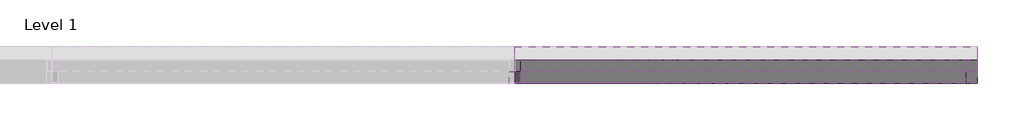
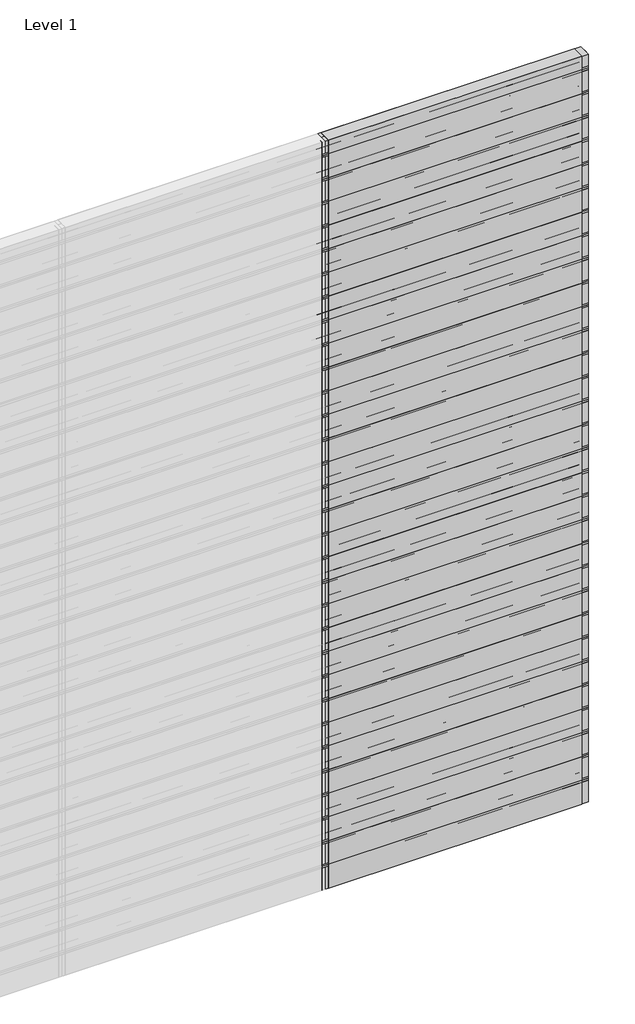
# One storey, part 3 of 3: 73 members, 64 plates.
"""IFC4 building model written with IfcOpenShell, lengths in millimetres."""

from ifc_helpers import new_model, si_unit, origin, place, context, project, spatial, transform, mapped, element, save
from components import rectangular_mullion_8734c8a8, rectangular_mullion_3201b9fb, rectangular_mullion_5aa39df7, rectangular_mullion_60d32940, rectangular_mullion_66fc153d, empty_system_panel_empty_0e8c6ffc, empty_system_panel_empty_bbeb8583, empty_system_panel_empty_e07de6c1, empty_system_panel_empty_83ec7203, empty_system_panel_empty_71fd4c2e

model = new_model("IFC4")

# Units and contexts
model_context = context("Model", 3, world=origin())
ifc_project = project(units=[si_unit("LENGTHUNIT", "METRE", prefix="MILLI")], contexts=[model_context])

# Site, building, storey
site = spatial("IfcSite", under=ifc_project)
building = spatial("IfcBuilding", under=site)
storey = spatial("IfcBuildingStorey", under=building, Name="Level 1", Elevation=0.0)

# Members
placement = place(None, origin())
rectangular_mullion_shape = rectangular_mullion_8734c8a8(model_context)
element("IfcMember", 1, ObjectType="Rectangular Mullion : RSen_21_CWM_blade - 150 CF_gen_duco projects", at=placement, inside=storey, context=model_context, shape_type="MappedRepresentation", body=[
    mapped(rectangular_mullion_shape, transform((4000.0, 3000.0, 4370.0), x_axis=(0.0, 0.0, 1.0), y_axis=(0.0, 1.0, 0.0), z_axis=(-1.0, 0.0, 0.0))),
])
element("IfcMember", 2, ObjectType="Rectangular Mullion : RSen_21_CWM_blade - 150 CF_gen_duco projects", at=placement, inside=storey, context=model_context, shape_type="MappedRepresentation", body=[
    mapped(rectangular_mullion_shape, transform((4000.0, 3000.0, 4560.0), x_axis=(0.0, 0.0, 1.0), y_axis=(0.0, 1.0, 0.0), z_axis=(-1.0, 0.0, 0.0))),
])
element("IfcMember", 3, ObjectType="Rectangular Mullion : RSen_21_CWM_blade - 150 CF_gen_duco projects", at=placement, inside=storey, context=model_context, shape_type="MappedRepresentation", body=[
    mapped(rectangular_mullion_shape, transform((4000.0, 3000.0, 4750.0), x_axis=(0.0, 0.0, 1.0), y_axis=(0.0, 1.0, 0.0), z_axis=(-1.0, 0.0, 0.0))),
])
element("IfcMember", 4, ObjectType="Rectangular Mullion : RSen_21_CWM_blade - 150 CF_gen_duco projects", at=placement, inside=storey, context=model_context, shape_type="MappedRepresentation", body=[
    mapped(rectangular_mullion_shape, transform((4000.0, 3000.0, 4940.0), x_axis=(0.0, 0.0, 1.0), y_axis=(0.0, 1.0, 0.0), z_axis=(-1.0, 0.0, 0.0))),
])
element("IfcMember", 5, ObjectType="Rectangular Mullion : RSen_21_CWM_blade - 150 CF_gen_duco projects", at=placement, inside=storey, context=model_context, shape_type="MappedRepresentation", body=[
    mapped(rectangular_mullion_shape, transform((4000.0, 3000.0, 5130.0), x_axis=(0.0, 0.0, 1.0), y_axis=(0.0, 1.0, 0.0), z_axis=(-1.0, 0.0, 0.0))),
])
element("IfcMember", 6, ObjectType="Rectangular Mullion : RSen_21_CWM_blade - 150 CF_gen_duco projects", at=placement, inside=storey, context=model_context, shape_type="MappedRepresentation", body=[
    mapped(rectangular_mullion_shape, transform((4000.0, 3000.0, 5320.0), x_axis=(0.0, 0.0, 1.0), y_axis=(0.0, 1.0, 0.0), z_axis=(-1.0, 0.0, 0.0))),
])
element("IfcMember", 7, ObjectType="Rectangular Mullion : RSen_21_CWM_blade - 150 CF_gen_duco projects", at=placement, inside=storey, context=model_context, shape_type="MappedRepresentation", body=[
    mapped(rectangular_mullion_shape, transform((4000.0, 3000.0, 5510.0), x_axis=(0.0, 0.0, 1.0), y_axis=(0.0, 1.0, 0.0), z_axis=(-1.0, 0.0, 0.0))),
])
element("IfcMember", 8, ObjectType="Rectangular Mullion : RSen_21_CWM_blade - 150 CF_gen_duco projects", at=placement, inside=storey, context=model_context, shape_type="MappedRepresentation", body=[
    mapped(rectangular_mullion_shape, transform((4000.0, 3000.0, 5700.0), x_axis=(0.0, 0.0, 1.0), y_axis=(0.0, 1.0, 0.0), z_axis=(-1.0, 0.0, 0.0))),
])
element("IfcMember", 9, ObjectType="Rectangular Mullion : RSen_21_CWM_blade - 150 CF_gen_duco projects", at=placement, inside=storey, context=model_context, shape_type="MappedRepresentation", body=[
    mapped(rectangular_mullion_shape, transform((4000.0, 3000.0, 5890.0), x_axis=(0.0, 0.0, 1.0), y_axis=(0.0, 1.0, 0.0), z_axis=(-1.0, 0.0, 0.0))),
])
rectangular_mullion_2_shape = rectangular_mullion_3201b9fb(model_context)
element("IfcMember", 10, ObjectType="Rectangular Mullion : RSen_21_CWM_support profile 50x50_gen_duco projects", at=placement, inside=storey, context=model_context, shape_type="MappedRepresentation", body=[
    mapped(rectangular_mullion_2_shape, transform((4000.0, 3000.0, 0.0), x_axis=(-1.0, 0.0, 0.0), y_axis=(0.0, 1.0, 0.0), z_axis=(0.0, 0.0, -1.0))),
])
element("IfcMember", 11, ObjectType="Rectangular Mullion : RSen_21_CWM_support profile 50x50_gen_duco projects", at=placement, inside=storey, context=model_context, shape_type="MappedRepresentation", body=[
    mapped(rectangular_mullion_2_shape, transform((4000.0, 3000.0, 190.0), x_axis=(-1.0, 0.0, 0.0), y_axis=(0.0, 1.0, 0.0), z_axis=(0.0, 0.0, -1.0))),
])
element("IfcMember", 12, ObjectType="Rectangular Mullion : RSen_21_CWM_support profile 50x50_gen_duco projects", at=placement, inside=storey, context=model_context, shape_type="MappedRepresentation", body=[
    mapped(rectangular_mullion_2_shape, transform((4000.0, 3000.0, 380.0), x_axis=(-1.0, 0.0, 0.0), y_axis=(0.0, 1.0, 0.0), z_axis=(0.0, 0.0, -1.0))),
])
element("IfcMember", 13, ObjectType="Rectangular Mullion : RSen_21_CWM_support profile 50x50_gen_duco projects", at=placement, inside=storey, context=model_context, shape_type="MappedRepresentation", body=[
    mapped(rectangular_mullion_2_shape, transform((4000.0, 3000.0, 570.0), x_axis=(-1.0, 0.0, 0.0), y_axis=(0.0, 1.0, 0.0), z_axis=(0.0, 0.0, -1.0))),
])
element("IfcMember", 14, ObjectType="Rectangular Mullion : RSen_21_CWM_support profile 50x50_gen_duco projects", at=placement, inside=storey, context=model_context, shape_type="MappedRepresentation", body=[
    mapped(rectangular_mullion_2_shape, transform((4000.0, 3000.0, 760.0), x_axis=(-1.0, 0.0, 0.0), y_axis=(0.0, 1.0, 0.0), z_axis=(0.0, 0.0, -1.0))),
])
element("IfcMember", 15, ObjectType="Rectangular Mullion : RSen_21_CWM_support profile 50x50_gen_duco projects", at=placement, inside=storey, context=model_context, shape_type="MappedRepresentation", body=[
    mapped(rectangular_mullion_2_shape, transform((4000.0, 3000.0, 950.0), x_axis=(-1.0, 0.0, 0.0), y_axis=(0.0, 1.0, 0.0), z_axis=(0.0, 0.0, -1.0))),
])
element("IfcMember", 16, ObjectType="Rectangular Mullion : RSen_21_CWM_support profile 50x50_gen_duco projects", at=placement, inside=storey, context=model_context, shape_type="MappedRepresentation", body=[
    mapped(rectangular_mullion_2_shape, transform((4000.0, 3000.0, 1140.0), x_axis=(-1.0, 0.0, 0.0), y_axis=(0.0, 1.0, 0.0), z_axis=(0.0, 0.0, -1.0))),
])
element("IfcMember", 17, ObjectType="Rectangular Mullion : RSen_21_CWM_support profile 50x50_gen_duco projects", at=placement, inside=storey, context=model_context, shape_type="MappedRepresentation", body=[
    mapped(rectangular_mullion_2_shape, transform((4000.0, 3000.0, 1330.0), x_axis=(-1.0, 0.0, 0.0), y_axis=(0.0, 1.0, 0.0), z_axis=(0.0, 0.0, -1.0))),
])
element("IfcMember", 18, ObjectType="Rectangular Mullion : RSen_21_CWM_support profile 50x50_gen_duco projects", at=placement, inside=storey, context=model_context, shape_type="MappedRepresentation", body=[
    mapped(rectangular_mullion_2_shape, transform((4000.0, 3000.0, 1520.0), x_axis=(-1.0, 0.0, 0.0), y_axis=(0.0, 1.0, 0.0), z_axis=(0.0, 0.0, -1.0))),
])
element("IfcMember", 19, ObjectType="Rectangular Mullion : RSen_21_CWM_support profile 50x50_gen_duco projects", at=placement, inside=storey, context=model_context, shape_type="MappedRepresentation", body=[
    mapped(rectangular_mullion_2_shape, transform((4000.0, 3000.0, 1710.0), x_axis=(-1.0, 0.0, 0.0), y_axis=(0.0, 1.0, 0.0), z_axis=(0.0, 0.0, -1.0))),
])
element("IfcMember", 20, ObjectType="Rectangular Mullion : RSen_21_CWM_support profile 50x50_gen_duco projects", at=placement, inside=storey, context=model_context, shape_type="MappedRepresentation", body=[
    mapped(rectangular_mullion_2_shape, transform((4000.0, 3000.0, 1900.0), x_axis=(-1.0, 0.0, 0.0), y_axis=(0.0, 1.0, 0.0), z_axis=(0.0, 0.0, -1.0))),
])
element("IfcMember", 21, ObjectType="Rectangular Mullion : RSen_21_CWM_support profile 50x50_gen_duco projects", at=placement, inside=storey, context=model_context, shape_type="MappedRepresentation", body=[
    mapped(rectangular_mullion_2_shape, transform((4000.0, 3000.0, 2090.0), x_axis=(-1.0, 0.0, 0.0), y_axis=(0.0, 1.0, 0.0), z_axis=(0.0, 0.0, -1.0))),
])
element("IfcMember", 22, ObjectType="Rectangular Mullion : RSen_21_CWM_support profile 50x50_gen_duco projects", at=placement, inside=storey, context=model_context, shape_type="MappedRepresentation", body=[
    mapped(rectangular_mullion_2_shape, transform((4000.0, 3000.0, 2280.0), x_axis=(-1.0, 0.0, 0.0), y_axis=(0.0, 1.0, 0.0), z_axis=(0.0, 0.0, -1.0))),
])
element("IfcMember", 23, ObjectType="Rectangular Mullion : RSen_21_CWM_support profile 50x50_gen_duco projects", at=placement, inside=storey, context=model_context, shape_type="MappedRepresentation", body=[
    mapped(rectangular_mullion_2_shape, transform((4000.0, 3000.0, 2470.0), x_axis=(-1.0, 0.0, 0.0), y_axis=(0.0, 1.0, 0.0), z_axis=(0.0, 0.0, -1.0))),
])
element("IfcMember", 24, ObjectType="Rectangular Mullion : RSen_21_CWM_support profile 50x50_gen_duco projects", at=placement, inside=storey, context=model_context, shape_type="MappedRepresentation", body=[
    mapped(rectangular_mullion_2_shape, transform((4000.0, 3000.0, 2660.0), x_axis=(-1.0, 0.0, 0.0), y_axis=(0.0, 1.0, 0.0), z_axis=(0.0, 0.0, -1.0))),
])
element("IfcMember", 25, ObjectType="Rectangular Mullion : RSen_21_CWM_support profile 50x50_gen_duco projects", at=placement, inside=storey, context=model_context, shape_type="MappedRepresentation", body=[
    mapped(rectangular_mullion_2_shape, transform((4000.0, 3000.0, 2850.0), x_axis=(-1.0, 0.0, 0.0), y_axis=(0.0, 1.0, 0.0), z_axis=(0.0, 0.0, -1.0))),
])
element("IfcMember", 26, ObjectType="Rectangular Mullion : RSen_21_CWM_support profile 50x50_gen_duco projects", at=placement, inside=storey, context=model_context, shape_type="MappedRepresentation", body=[
    mapped(rectangular_mullion_2_shape, transform((4000.0, 3000.0, 3040.0), x_axis=(-1.0, 0.0, 0.0), y_axis=(0.0, 1.0, 0.0), z_axis=(0.0, 0.0, -1.0))),
])
element("IfcMember", 27, ObjectType="Rectangular Mullion : RSen_21_CWM_support profile 50x50_gen_duco projects", at=placement, inside=storey, context=model_context, shape_type="MappedRepresentation", body=[
    mapped(rectangular_mullion_2_shape, transform((4000.0, 3000.0, 3230.0), x_axis=(-1.0, 0.0, 0.0), y_axis=(0.0, 1.0, 0.0), z_axis=(0.0, 0.0, -1.0))),
])
element("IfcMember", 28, ObjectType="Rectangular Mullion : RSen_21_CWM_support profile 50x50_gen_duco projects", at=placement, inside=storey, context=model_context, shape_type="MappedRepresentation", body=[
    mapped(rectangular_mullion_2_shape, transform((4000.0, 3000.0, 3420.0), x_axis=(-1.0, 0.0, 0.0), y_axis=(0.0, 1.0, 0.0), z_axis=(0.0, 0.0, -1.0))),
])
element("IfcMember", 29, ObjectType="Rectangular Mullion : RSen_21_CWM_support profile 50x50_gen_duco projects", at=placement, inside=storey, context=model_context, shape_type="MappedRepresentation", body=[
    mapped(rectangular_mullion_2_shape, transform((4000.0, 3000.0, 3610.0), x_axis=(-1.0, 0.0, 0.0), y_axis=(0.0, 1.0, 0.0), z_axis=(0.0, 0.0, -1.0))),
])
element("IfcMember", 30, ObjectType="Rectangular Mullion : RSen_21_CWM_support profile 50x50_gen_duco projects", at=placement, inside=storey, context=model_context, shape_type="MappedRepresentation", body=[
    mapped(rectangular_mullion_2_shape, transform((4000.0, 3000.0, 3800.0), x_axis=(-1.0, 0.0, 0.0), y_axis=(0.0, 1.0, 0.0), z_axis=(0.0, 0.0, -1.0))),
])
element("IfcMember", 31, ObjectType="Rectangular Mullion : RSen_21_CWM_support profile 50x50_gen_duco projects", at=placement, inside=storey, context=model_context, shape_type="MappedRepresentation", body=[
    mapped(rectangular_mullion_2_shape, transform((4000.0, 3000.0, 3990.0), x_axis=(-1.0, 0.0, 0.0), y_axis=(0.0, 1.0, 0.0), z_axis=(0.0, 0.0, -1.0))),
])
element("IfcMember", 32, ObjectType="Rectangular Mullion : RSen_21_CWM_support profile 50x50_gen_duco projects", at=placement, inside=storey, context=model_context, shape_type="MappedRepresentation", body=[
    mapped(rectangular_mullion_2_shape, transform((4000.0, 3000.0, 4180.0), x_axis=(-1.0, 0.0, 0.0), y_axis=(0.0, 1.0, 0.0), z_axis=(0.0, 0.0, -1.0))),
])
element("IfcMember", 33, ObjectType="Rectangular Mullion : RSen_21_CWM_support profile 50x50_gen_duco projects", at=placement, inside=storey, context=model_context, shape_type="MappedRepresentation", body=[
    mapped(rectangular_mullion_2_shape, transform((4000.0, 3000.0, 4370.0), x_axis=(-1.0, 0.0, 0.0), y_axis=(0.0, 1.0, 0.0), z_axis=(0.0, 0.0, -1.0))),
])
element("IfcMember", 34, ObjectType="Rectangular Mullion : RSen_21_CWM_support profile 50x50_gen_duco projects", at=placement, inside=storey, context=model_context, shape_type="MappedRepresentation", body=[
    mapped(rectangular_mullion_2_shape, transform((4000.0, 3000.0, 4560.0), x_axis=(-1.0, 0.0, 0.0), y_axis=(0.0, 1.0, 0.0), z_axis=(0.0, 0.0, -1.0))),
])
element("IfcMember", 35, ObjectType="Rectangular Mullion : RSen_21_CWM_support profile 50x50_gen_duco projects", at=placement, inside=storey, context=model_context, shape_type="MappedRepresentation", body=[
    mapped(rectangular_mullion_2_shape, transform((4000.0, 3000.0, 4750.0), x_axis=(-1.0, 0.0, 0.0), y_axis=(0.0, 1.0, 0.0), z_axis=(0.0, 0.0, -1.0))),
])
element("IfcMember", 36, ObjectType="Rectangular Mullion : RSen_21_CWM_support profile 50x50_gen_duco projects", at=placement, inside=storey, context=model_context, shape_type="MappedRepresentation", body=[
    mapped(rectangular_mullion_2_shape, transform((4000.0, 3000.0, 4940.0), x_axis=(-1.0, 0.0, 0.0), y_axis=(0.0, 1.0, 0.0), z_axis=(0.0, 0.0, -1.0))),
])
element("IfcMember", 37, ObjectType="Rectangular Mullion : RSen_21_CWM_support profile 50x50_gen_duco projects", at=placement, inside=storey, context=model_context, shape_type="MappedRepresentation", body=[
    mapped(rectangular_mullion_2_shape, transform((4000.0, 3000.0, 5130.0), x_axis=(-1.0, 0.0, 0.0), y_axis=(0.0, 1.0, 0.0), z_axis=(0.0, 0.0, -1.0))),
])
element("IfcMember", 38, ObjectType="Rectangular Mullion : RSen_21_CWM_support profile 50x50_gen_duco projects", at=placement, inside=storey, context=model_context, shape_type="MappedRepresentation", body=[
    mapped(rectangular_mullion_2_shape, transform((4000.0, 3000.0, 5320.0), x_axis=(-1.0, 0.0, 0.0), y_axis=(0.0, 1.0, 0.0), z_axis=(0.0, 0.0, -1.0))),
])
element("IfcMember", 39, ObjectType="Rectangular Mullion : RSen_21_CWM_support profile 50x50_gen_duco projects", at=placement, inside=storey, context=model_context, shape_type="MappedRepresentation", body=[
    mapped(rectangular_mullion_2_shape, transform((4000.0, 3000.0, 5510.0), x_axis=(-1.0, 0.0, 0.0), y_axis=(0.0, 1.0, 0.0), z_axis=(0.0, 0.0, -1.0))),
])
element("IfcMember", 40, ObjectType="Rectangular Mullion : RSen_21_CWM_support profile 50x50_gen_duco projects", at=placement, inside=storey, context=model_context, shape_type="MappedRepresentation", body=[
    mapped(rectangular_mullion_2_shape, transform((4000.0, 3000.0, 5700.0), x_axis=(-1.0, 0.0, 0.0), y_axis=(0.0, 1.0, 0.0), z_axis=(0.0, 0.0, -1.0))),
])
rectangular_mullion_3_shape = rectangular_mullion_5aa39df7(model_context)
element("IfcMember", 41, ObjectType="Rectangular Mullion : RSen_21_CWM_support profile 50x50_gen_duco projects", at=placement, inside=storey, context=model_context, shape_type="MappedRepresentation", body=[
    mapped(rectangular_mullion_3_shape, transform((4000.0, 3000.0, 5890.0), x_axis=(-1.0, 0.0, 0.0), y_axis=(0.0, 1.0, 0.0), z_axis=(0.0, 0.0, -1.0))),
])
rectangular_mullion_4_shape = rectangular_mullion_60d32940(model_context)
element("IfcMember", 42, ObjectType="Rectangular Mullion : RSen_21_CWM_support profile 50x50 - right_gen_duco projects", at=placement, inside=storey, context=model_context, shape_type="MappedRepresentation", body=[
    mapped(rectangular_mullion_4_shape, transform((6000.0, 3000.0, 6000.0), x_axis=(1.0, 0.0, 0.0), y_axis=(0.0, 1.0, 0.0), z_axis=(0.0, 0.0, 1.0))),
])
rectangular_mullion_5_shape = rectangular_mullion_66fc153d(model_context)
element("IfcMember", 43, ObjectType="Rectangular Mullion : RSen_21_CWM_support profile 50x50 - right_gen_duco projects", at=placement, inside=storey, context=model_context, shape_type="MappedRepresentation", body=[
    mapped(rectangular_mullion_5_shape, transform((6000.0, 3000.0, 190.0), x_axis=(1.0, 0.0, 0.0), y_axis=(0.0, 1.0, 0.0), z_axis=(0.0, 0.0, 1.0))),
])
element("IfcMember", 44, ObjectType="Rectangular Mullion : RSen_21_CWM_support profile 50x50 - right_gen_duco projects", at=placement, inside=storey, context=model_context, shape_type="MappedRepresentation", body=[
    mapped(rectangular_mullion_5_shape, transform((6000.0, 3000.0, 380.0), x_axis=(1.0, 0.0, 0.0), y_axis=(0.0, 1.0, 0.0), z_axis=(0.0, 0.0, 1.0))),
])
element("IfcMember", 45, ObjectType="Rectangular Mullion : RSen_21_CWM_support profile 50x50 - right_gen_duco projects", at=placement, inside=storey, context=model_context, shape_type="MappedRepresentation", body=[
    mapped(rectangular_mullion_5_shape, transform((6000.0, 3000.0, 570.0), x_axis=(1.0, 0.0, 0.0), y_axis=(0.0, 1.0, 0.0), z_axis=(0.0, 0.0, 1.0))),
])
element("IfcMember", 46, ObjectType="Rectangular Mullion : RSen_21_CWM_support profile 50x50 - right_gen_duco projects", at=placement, inside=storey, context=model_context, shape_type="MappedRepresentation", body=[
    mapped(rectangular_mullion_5_shape, transform((6000.0, 3000.0, 760.0), x_axis=(1.0, 0.0, 0.0), y_axis=(0.0, 1.0, 0.0), z_axis=(0.0, 0.0, 1.0))),
])
element("IfcMember", 47, ObjectType="Rectangular Mullion : RSen_21_CWM_support profile 50x50 - right_gen_duco projects", at=placement, inside=storey, context=model_context, shape_type="MappedRepresentation", body=[
    mapped(rectangular_mullion_5_shape, transform((6000.0, 3000.0, 950.0), x_axis=(1.0, 0.0, 0.0), y_axis=(0.0, 1.0, 0.0), z_axis=(0.0, 0.0, 1.0))),
])
element("IfcMember", 48, ObjectType="Rectangular Mullion : RSen_21_CWM_support profile 50x50 - right_gen_duco projects", at=placement, inside=storey, context=model_context, shape_type="MappedRepresentation", body=[
    mapped(rectangular_mullion_5_shape, transform((6000.0, 3000.0, 1140.0), x_axis=(1.0, 0.0, 0.0), y_axis=(0.0, 1.0, 0.0), z_axis=(0.0, 0.0, 1.0))),
])
element("IfcMember", 49, ObjectType="Rectangular Mullion : RSen_21_CWM_support profile 50x50 - right_gen_duco projects", at=placement, inside=storey, context=model_context, shape_type="MappedRepresentation", body=[
    mapped(rectangular_mullion_5_shape, transform((6000.0, 3000.0, 1330.0), x_axis=(1.0, 0.0, 0.0), y_axis=(0.0, 1.0, 0.0), z_axis=(0.0, 0.0, 1.0))),
])
element("IfcMember", 50, ObjectType="Rectangular Mullion : RSen_21_CWM_support profile 50x50 - right_gen_duco projects", at=placement, inside=storey, context=model_context, shape_type="MappedRepresentation", body=[
    mapped(rectangular_mullion_5_shape, transform((6000.0, 3000.0, 1520.0), x_axis=(1.0, 0.0, 0.0), y_axis=(0.0, 1.0, 0.0), z_axis=(0.0, 0.0, 1.0))),
])
element("IfcMember", 51, ObjectType="Rectangular Mullion : RSen_21_CWM_support profile 50x50 - right_gen_duco projects", at=placement, inside=storey, context=model_context, shape_type="MappedRepresentation", body=[
    mapped(rectangular_mullion_5_shape, transform((6000.0, 3000.0, 1710.0), x_axis=(1.0, 0.0, 0.0), y_axis=(0.0, 1.0, 0.0), z_axis=(0.0, 0.0, 1.0))),
])
element("IfcMember", 52, ObjectType="Rectangular Mullion : RSen_21_CWM_support profile 50x50 - right_gen_duco projects", at=placement, inside=storey, context=model_context, shape_type="MappedRepresentation", body=[
    mapped(rectangular_mullion_5_shape, transform((6000.0, 3000.0, 1900.0), x_axis=(1.0, 0.0, 0.0), y_axis=(0.0, 1.0, 0.0), z_axis=(0.0, 0.0, 1.0))),
])
element("IfcMember", 53, ObjectType="Rectangular Mullion : RSen_21_CWM_support profile 50x50 - right_gen_duco projects", at=placement, inside=storey, context=model_context, shape_type="MappedRepresentation", body=[
    mapped(rectangular_mullion_5_shape, transform((6000.0, 3000.0, 2090.0), x_axis=(1.0, 0.0, 0.0), y_axis=(0.0, 1.0, 0.0), z_axis=(0.0, 0.0, 1.0))),
])
element("IfcMember", 54, ObjectType="Rectangular Mullion : RSen_21_CWM_support profile 50x50 - right_gen_duco projects", at=placement, inside=storey, context=model_context, shape_type="MappedRepresentation", body=[
    mapped(rectangular_mullion_5_shape, transform((6000.0, 3000.0, 2280.0), x_axis=(1.0, 0.0, 0.0), y_axis=(0.0, 1.0, 0.0), z_axis=(0.0, 0.0, 1.0))),
])
element("IfcMember", 55, ObjectType="Rectangular Mullion : RSen_21_CWM_support profile 50x50 - right_gen_duco projects", at=placement, inside=storey, context=model_context, shape_type="MappedRepresentation", body=[
    mapped(rectangular_mullion_5_shape, transform((6000.0, 3000.0, 2470.0), x_axis=(1.0, 0.0, 0.0), y_axis=(0.0, 1.0, 0.0), z_axis=(0.0, 0.0, 1.0))),
])
element("IfcMember", 56, ObjectType="Rectangular Mullion : RSen_21_CWM_support profile 50x50 - right_gen_duco projects", at=placement, inside=storey, context=model_context, shape_type="MappedRepresentation", body=[
    mapped(rectangular_mullion_5_shape, transform((6000.0, 3000.0, 2660.0), x_axis=(1.0, 0.0, 0.0), y_axis=(0.0, 1.0, 0.0), z_axis=(0.0, 0.0, 1.0))),
])
element("IfcMember", 57, ObjectType="Rectangular Mullion : RSen_21_CWM_support profile 50x50 - right_gen_duco projects", at=placement, inside=storey, context=model_context, shape_type="MappedRepresentation", body=[
    mapped(rectangular_mullion_5_shape, transform((6000.0, 3000.0, 2850.0), x_axis=(1.0, 0.0, 0.0), y_axis=(0.0, 1.0, 0.0), z_axis=(0.0, 0.0, 1.0))),
])
element("IfcMember", 58, ObjectType="Rectangular Mullion : RSen_21_CWM_support profile 50x50 - right_gen_duco projects", at=placement, inside=storey, context=model_context, shape_type="MappedRepresentation", body=[
    mapped(rectangular_mullion_5_shape, transform((6000.0, 3000.0, 3040.0), x_axis=(1.0, 0.0, 0.0), y_axis=(0.0, 1.0, 0.0), z_axis=(0.0, 0.0, 1.0))),
])
element("IfcMember", 59, ObjectType="Rectangular Mullion : RSen_21_CWM_support profile 50x50 - right_gen_duco projects", at=placement, inside=storey, context=model_context, shape_type="MappedRepresentation", body=[
    mapped(rectangular_mullion_5_shape, transform((6000.0, 3000.0, 3230.0), x_axis=(1.0, 0.0, 0.0), y_axis=(0.0, 1.0, 0.0), z_axis=(0.0, 0.0, 1.0))),
])
element("IfcMember", 60, ObjectType="Rectangular Mullion : RSen_21_CWM_support profile 50x50 - right_gen_duco projects", at=placement, inside=storey, context=model_context, shape_type="MappedRepresentation", body=[
    mapped(rectangular_mullion_5_shape, transform((6000.0, 3000.0, 3420.0), x_axis=(1.0, 0.0, 0.0), y_axis=(0.0, 1.0, 0.0), z_axis=(0.0, 0.0, 1.0))),
])
element("IfcMember", 61, ObjectType="Rectangular Mullion : RSen_21_CWM_support profile 50x50 - right_gen_duco projects", at=placement, inside=storey, context=model_context, shape_type="MappedRepresentation", body=[
    mapped(rectangular_mullion_5_shape, transform((6000.0, 3000.0, 3610.0), x_axis=(1.0, 0.0, 0.0), y_axis=(0.0, 1.0, 0.0), z_axis=(0.0, 0.0, 1.0))),
])
element("IfcMember", 62, ObjectType="Rectangular Mullion : RSen_21_CWM_support profile 50x50 - right_gen_duco projects", at=placement, inside=storey, context=model_context, shape_type="MappedRepresentation", body=[
    mapped(rectangular_mullion_5_shape, transform((6000.0, 3000.0, 3800.0), x_axis=(1.0, 0.0, 0.0), y_axis=(0.0, 1.0, 0.0), z_axis=(0.0, 0.0, 1.0))),
])
element("IfcMember", 63, ObjectType="Rectangular Mullion : RSen_21_CWM_support profile 50x50 - right_gen_duco projects", at=placement, inside=storey, context=model_context, shape_type="MappedRepresentation", body=[
    mapped(rectangular_mullion_5_shape, transform((6000.0, 3000.0, 3990.0), x_axis=(1.0, 0.0, 0.0), y_axis=(0.0, 1.0, 0.0), z_axis=(0.0, 0.0, 1.0))),
])
element("IfcMember", 64, ObjectType="Rectangular Mullion : RSen_21_CWM_support profile 50x50 - right_gen_duco projects", at=placement, inside=storey, context=model_context, shape_type="MappedRepresentation", body=[
    mapped(rectangular_mullion_5_shape, transform((6000.0, 3000.0, 4180.0), x_axis=(1.0, 0.0, 0.0), y_axis=(0.0, 1.0, 0.0), z_axis=(0.0, 0.0, 1.0))),
])
element("IfcMember", 65, ObjectType="Rectangular Mullion : RSen_21_CWM_support profile 50x50 - right_gen_duco projects", at=placement, inside=storey, context=model_context, shape_type="MappedRepresentation", body=[
    mapped(rectangular_mullion_5_shape, transform((6000.0, 3000.0, 4370.0), x_axis=(1.0, 0.0, 0.0), y_axis=(0.0, 1.0, 0.0), z_axis=(0.0, 0.0, 1.0))),
])
element("IfcMember", 66, ObjectType="Rectangular Mullion : RSen_21_CWM_support profile 50x50 - right_gen_duco projects", at=placement, inside=storey, context=model_context, shape_type="MappedRepresentation", body=[
    mapped(rectangular_mullion_5_shape, transform((6000.0, 3000.0, 4560.0), x_axis=(1.0, 0.0, 0.0), y_axis=(0.0, 1.0, 0.0), z_axis=(0.0, 0.0, 1.0))),
])
element("IfcMember", 67, ObjectType="Rectangular Mullion : RSen_21_CWM_support profile 50x50 - right_gen_duco projects", at=placement, inside=storey, context=model_context, shape_type="MappedRepresentation", body=[
    mapped(rectangular_mullion_5_shape, transform((6000.0, 3000.0, 4750.0), x_axis=(1.0, 0.0, 0.0), y_axis=(0.0, 1.0, 0.0), z_axis=(0.0, 0.0, 1.0))),
])
element("IfcMember", 68, ObjectType="Rectangular Mullion : RSen_21_CWM_support profile 50x50 - right_gen_duco projects", at=placement, inside=storey, context=model_context, shape_type="MappedRepresentation", body=[
    mapped(rectangular_mullion_5_shape, transform((6000.0, 3000.0, 4940.0), x_axis=(1.0, 0.0, 0.0), y_axis=(0.0, 1.0, 0.0), z_axis=(0.0, 0.0, 1.0))),
])
element("IfcMember", 69, ObjectType="Rectangular Mullion : RSen_21_CWM_support profile 50x50 - right_gen_duco projects", at=placement, inside=storey, context=model_context, shape_type="MappedRepresentation", body=[
    mapped(rectangular_mullion_5_shape, transform((6000.0, 3000.0, 5130.0), x_axis=(1.0, 0.0, 0.0), y_axis=(0.0, 1.0, 0.0), z_axis=(0.0, 0.0, 1.0))),
])
element("IfcMember", 70, ObjectType="Rectangular Mullion : RSen_21_CWM_support profile 50x50 - right_gen_duco projects", at=placement, inside=storey, context=model_context, shape_type="MappedRepresentation", body=[
    mapped(rectangular_mullion_5_shape, transform((6000.0, 3000.0, 5320.0), x_axis=(1.0, 0.0, 0.0), y_axis=(0.0, 1.0, 0.0), z_axis=(0.0, 0.0, 1.0))),
])
element("IfcMember", 71, ObjectType="Rectangular Mullion : RSen_21_CWM_support profile 50x50 - right_gen_duco projects", at=placement, inside=storey, context=model_context, shape_type="MappedRepresentation", body=[
    mapped(rectangular_mullion_5_shape, transform((6000.0, 3000.0, 5510.0), x_axis=(1.0, 0.0, 0.0), y_axis=(0.0, 1.0, 0.0), z_axis=(0.0, 0.0, 1.0))),
])
element("IfcMember", 72, ObjectType="Rectangular Mullion : RSen_21_CWM_support profile 50x50 - right_gen_duco projects", at=placement, inside=storey, context=model_context, shape_type="MappedRepresentation", body=[
    mapped(rectangular_mullion_5_shape, transform((6000.0, 3000.0, 5700.0), x_axis=(1.0, 0.0, 0.0), y_axis=(0.0, 1.0, 0.0), z_axis=(0.0, 0.0, 1.0))),
])
element("IfcMember", 73, ObjectType="Rectangular Mullion : RSen_21_CWM_support profile 50x50 - right_gen_duco projects", at=placement, inside=storey, context=model_context, shape_type="MappedRepresentation", body=[
    mapped(rectangular_mullion_5_shape, transform((6000.0, 3000.0, 5890.0), x_axis=(1.0, 0.0, 0.0), y_axis=(0.0, 1.0, 0.0), z_axis=(0.0, 0.0, 1.0))),
])

# Plates
empty_system_panel_empty_shape = empty_system_panel_empty_0e8c6ffc(model_context)
element("IfcPlate", 74, ObjectType="Empty System Panel : Empty", at=placement, inside=storey, context=model_context, shape_type="MappedRepresentation", body=[
    mapped(empty_system_panel_empty_shape, transform((5000.0, 3000.0, 0.0), x_axis=(-1.0, 0.0, 0.0), y_axis=(0.0, -1.0, 0.0), z_axis=(0.0, 0.0, 1.0))),
])
empty_system_panel_empty_2_shape = empty_system_panel_empty_bbeb8583(model_context)
element("IfcPlate", 75, ObjectType="Empty System Panel : Empty", at=placement, inside=storey, context=model_context, shape_type="MappedRepresentation", body=[
    mapped(empty_system_panel_empty_2_shape, transform((5000.0, 3000.0, 204.8492424), x_axis=(-1.0, 0.0, 0.0), y_axis=(0.0, -1.0, 0.0), z_axis=(0.0, 0.0, 1.0))),
])
element("IfcPlate", 76, ObjectType="Empty System Panel : Empty", at=placement, inside=storey, context=model_context, shape_type="MappedRepresentation", body=[
    mapped(empty_system_panel_empty_2_shape, transform((5000.0, 3000.0, 394.8492424), x_axis=(-1.0, 0.0, 0.0), y_axis=(0.0, -1.0, 0.0), z_axis=(0.0, 0.0, 1.0))),
])
element("IfcPlate", 77, ObjectType="Empty System Panel : Empty", at=placement, inside=storey, context=model_context, shape_type="MappedRepresentation", body=[
    mapped(empty_system_panel_empty_2_shape, transform((5000.0, 3000.0, 584.8492424), x_axis=(-1.0, 0.0, 0.0), y_axis=(0.0, -1.0, 0.0), z_axis=(0.0, 0.0, 1.0))),
])
element("IfcPlate", 78, ObjectType="Empty System Panel : Empty", at=placement, inside=storey, context=model_context, shape_type="MappedRepresentation", body=[
    mapped(empty_system_panel_empty_2_shape, transform((5000.0, 3000.0, 774.8492424), x_axis=(-1.0, 0.0, 0.0), y_axis=(0.0, -1.0, 0.0), z_axis=(0.0, 0.0, 1.0))),
])
element("IfcPlate", 79, ObjectType="Empty System Panel : Empty", at=placement, inside=storey, context=model_context, shape_type="MappedRepresentation", body=[
    mapped(empty_system_panel_empty_2_shape, transform((5000.0, 3000.0, 964.8492424), x_axis=(-1.0, 0.0, 0.0), y_axis=(0.0, -1.0, 0.0), z_axis=(0.0, 0.0, 1.0))),
])
element("IfcPlate", 80, ObjectType="Empty System Panel : Empty", at=placement, inside=storey, context=model_context, shape_type="MappedRepresentation", body=[
    mapped(empty_system_panel_empty_2_shape, transform((5000.0, 3000.0, 1154.8492424), x_axis=(-1.0, 0.0, 0.0), y_axis=(0.0, -1.0, 0.0), z_axis=(0.0, 0.0, 1.0))),
])
element("IfcPlate", 81, ObjectType="Empty System Panel : Empty", at=placement, inside=storey, context=model_context, shape_type="MappedRepresentation", body=[
    mapped(empty_system_panel_empty_2_shape, transform((5000.0, 3000.0, 1344.8492424), x_axis=(-1.0, 0.0, 0.0), y_axis=(0.0, -1.0, 0.0), z_axis=(0.0, 0.0, 1.0))),
])
element("IfcPlate", 82, ObjectType="Empty System Panel : Empty", at=placement, inside=storey, context=model_context, shape_type="MappedRepresentation", body=[
    mapped(empty_system_panel_empty_2_shape, transform((5000.0, 3000.0, 1534.8492424), x_axis=(-1.0, 0.0, 0.0), y_axis=(0.0, -1.0, 0.0), z_axis=(0.0, 0.0, 1.0))),
])
element("IfcPlate", 83, ObjectType="Empty System Panel : Empty", at=placement, inside=storey, context=model_context, shape_type="MappedRepresentation", body=[
    mapped(empty_system_panel_empty_2_shape, transform((5000.0, 3000.0, 1724.8492424), x_axis=(-1.0, 0.0, 0.0), y_axis=(0.0, -1.0, 0.0), z_axis=(0.0, 0.0, 1.0))),
])
element("IfcPlate", 84, ObjectType="Empty System Panel : Empty", at=placement, inside=storey, context=model_context, shape_type="MappedRepresentation", body=[
    mapped(empty_system_panel_empty_2_shape, transform((5000.0, 3000.0, 1914.8492424), x_axis=(-1.0, 0.0, 0.0), y_axis=(0.0, -1.0, 0.0), z_axis=(0.0, 0.0, 1.0))),
])
element("IfcPlate", 85, ObjectType="Empty System Panel : Empty", at=placement, inside=storey, context=model_context, shape_type="MappedRepresentation", body=[
    mapped(empty_system_panel_empty_2_shape, transform((5000.0, 3000.0, 2104.8492424), x_axis=(-1.0, 0.0, 0.0), y_axis=(0.0, -1.0, 0.0), z_axis=(0.0, 0.0, 1.0))),
])
element("IfcPlate", 86, ObjectType="Empty System Panel : Empty", at=placement, inside=storey, context=model_context, shape_type="MappedRepresentation", body=[
    mapped(empty_system_panel_empty_2_shape, transform((5000.0, 3000.0, 2294.8492424), x_axis=(-1.0, 0.0, 0.0), y_axis=(0.0, -1.0, 0.0), z_axis=(0.0, 0.0, 1.0))),
])
element("IfcPlate", 87, ObjectType="Empty System Panel : Empty", at=placement, inside=storey, context=model_context, shape_type="MappedRepresentation", body=[
    mapped(empty_system_panel_empty_2_shape, transform((5000.0, 3000.0, 2484.8492424), x_axis=(-1.0, 0.0, 0.0), y_axis=(0.0, -1.0, 0.0), z_axis=(0.0, 0.0, 1.0))),
])
element("IfcPlate", 88, ObjectType="Empty System Panel : Empty", at=placement, inside=storey, context=model_context, shape_type="MappedRepresentation", body=[
    mapped(empty_system_panel_empty_2_shape, transform((5000.0, 3000.0, 2674.8492424), x_axis=(-1.0, 0.0, 0.0), y_axis=(0.0, -1.0, 0.0), z_axis=(0.0, 0.0, 1.0))),
])
element("IfcPlate", 89, ObjectType="Empty System Panel : Empty", at=placement, inside=storey, context=model_context, shape_type="MappedRepresentation", body=[
    mapped(empty_system_panel_empty_2_shape, transform((5000.0, 3000.0, 2864.8492424), x_axis=(-1.0, 0.0, 0.0), y_axis=(0.0, -1.0, 0.0), z_axis=(0.0, 0.0, 1.0))),
])
element("IfcPlate", 90, ObjectType="Empty System Panel : Empty", at=placement, inside=storey, context=model_context, shape_type="MappedRepresentation", body=[
    mapped(empty_system_panel_empty_2_shape, transform((5000.0, 3000.0, 3054.8492424), x_axis=(-1.0, 0.0, 0.0), y_axis=(0.0, -1.0, 0.0), z_axis=(0.0, 0.0, 1.0))),
])
element("IfcPlate", 91, ObjectType="Empty System Panel : Empty", at=placement, inside=storey, context=model_context, shape_type="MappedRepresentation", body=[
    mapped(empty_system_panel_empty_2_shape, transform((5000.0, 3000.0, 3244.8492424), x_axis=(-1.0, 0.0, 0.0), y_axis=(0.0, -1.0, 0.0), z_axis=(0.0, 0.0, 1.0))),
])
element("IfcPlate", 92, ObjectType="Empty System Panel : Empty", at=placement, inside=storey, context=model_context, shape_type="MappedRepresentation", body=[
    mapped(empty_system_panel_empty_2_shape, transform((5000.0, 3000.0, 3434.8492424), x_axis=(-1.0, 0.0, 0.0), y_axis=(0.0, -1.0, 0.0), z_axis=(0.0, 0.0, 1.0))),
])
element("IfcPlate", 93, ObjectType="Empty System Panel : Empty", at=placement, inside=storey, context=model_context, shape_type="MappedRepresentation", body=[
    mapped(empty_system_panel_empty_2_shape, transform((5000.0, 3000.0, 3624.8492424), x_axis=(-1.0, 0.0, 0.0), y_axis=(0.0, -1.0, 0.0), z_axis=(0.0, 0.0, 1.0))),
])
element("IfcPlate", 94, ObjectType="Empty System Panel : Empty", at=placement, inside=storey, context=model_context, shape_type="MappedRepresentation", body=[
    mapped(empty_system_panel_empty_2_shape, transform((5000.0, 3000.0, 3814.8492424), x_axis=(-1.0, 0.0, 0.0), y_axis=(0.0, -1.0, 0.0), z_axis=(0.0, 0.0, 1.0))),
])
element("IfcPlate", 95, ObjectType="Empty System Panel : Empty", at=placement, inside=storey, context=model_context, shape_type="MappedRepresentation", body=[
    mapped(empty_system_panel_empty_2_shape, transform((5000.0, 3000.0, 4004.8492424), x_axis=(-1.0, 0.0, 0.0), y_axis=(0.0, -1.0, 0.0), z_axis=(0.0, 0.0, 1.0))),
])
element("IfcPlate", 96, ObjectType="Empty System Panel : Empty", at=placement, inside=storey, context=model_context, shape_type="MappedRepresentation", body=[
    mapped(empty_system_panel_empty_2_shape, transform((5000.0, 3000.0, 4194.8492424), x_axis=(-1.0, 0.0, 0.0), y_axis=(0.0, -1.0, 0.0), z_axis=(0.0, 0.0, 1.0))),
])
element("IfcPlate", 97, ObjectType="Empty System Panel : Empty", at=placement, inside=storey, context=model_context, shape_type="MappedRepresentation", body=[
    mapped(empty_system_panel_empty_2_shape, transform((5000.0, 3000.0, 4384.8492424), x_axis=(-1.0, 0.0, 0.0), y_axis=(0.0, -1.0, 0.0), z_axis=(0.0, 0.0, 1.0))),
])
element("IfcPlate", 98, ObjectType="Empty System Panel : Empty", at=placement, inside=storey, context=model_context, shape_type="MappedRepresentation", body=[
    mapped(empty_system_panel_empty_2_shape, transform((5000.0, 3000.0, 4574.8492424), x_axis=(-1.0, 0.0, 0.0), y_axis=(0.0, -1.0, 0.0), z_axis=(0.0, 0.0, 1.0))),
])
element("IfcPlate", 99, ObjectType="Empty System Panel : Empty", at=placement, inside=storey, context=model_context, shape_type="MappedRepresentation", body=[
    mapped(empty_system_panel_empty_2_shape, transform((5000.0, 3000.0, 4764.8492424), x_axis=(-1.0, 0.0, 0.0), y_axis=(0.0, -1.0, 0.0), z_axis=(0.0, 0.0, 1.0))),
])
element("IfcPlate", 100, ObjectType="Empty System Panel : Empty", at=placement, inside=storey, context=model_context, shape_type="MappedRepresentation", body=[
    mapped(empty_system_panel_empty_2_shape, transform((5000.0, 3000.0, 4954.8492424), x_axis=(-1.0, 0.0, 0.0), y_axis=(0.0, -1.0, 0.0), z_axis=(0.0, 0.0, 1.0))),
])
element("IfcPlate", 101, ObjectType="Empty System Panel : Empty", at=placement, inside=storey, context=model_context, shape_type="MappedRepresentation", body=[
    mapped(empty_system_panel_empty_2_shape, transform((5000.0, 3000.0, 5144.8492424), x_axis=(-1.0, 0.0, 0.0), y_axis=(0.0, -1.0, 0.0), z_axis=(0.0, 0.0, 1.0))),
])
element("IfcPlate", 102, ObjectType="Empty System Panel : Empty", at=placement, inside=storey, context=model_context, shape_type="MappedRepresentation", body=[
    mapped(empty_system_panel_empty_2_shape, transform((5000.0, 3000.0, 5334.8492424), x_axis=(-1.0, 0.0, 0.0), y_axis=(0.0, -1.0, 0.0), z_axis=(0.0, 0.0, 1.0))),
])
element("IfcPlate", 103, ObjectType="Empty System Panel : Empty", at=placement, inside=storey, context=model_context, shape_type="MappedRepresentation", body=[
    mapped(empty_system_panel_empty_2_shape, transform((5000.0, 3000.0, 5524.8492424), x_axis=(-1.0, 0.0, 0.0), y_axis=(0.0, -1.0, 0.0), z_axis=(0.0, 0.0, 1.0))),
])
element("IfcPlate", 104, ObjectType="Empty System Panel : Empty", at=placement, inside=storey, context=model_context, shape_type="MappedRepresentation", body=[
    mapped(empty_system_panel_empty_2_shape, transform((5000.0, 3000.0, 5714.8492424), x_axis=(-1.0, 0.0, 0.0), y_axis=(0.0, -1.0, 0.0), z_axis=(0.0, 0.0, 1.0))),
])
empty_system_panel_empty_3_shape = empty_system_panel_empty_e07de6c1(model_context)
element("IfcPlate", 105, ObjectType="Empty System Panel : Empty", at=placement, inside=storey, context=model_context, shape_type="MappedRepresentation", body=[
    mapped(empty_system_panel_empty_3_shape, transform((5000.0, 3000.0, 5904.8492424), x_axis=(-1.0, 0.0, 0.0), y_axis=(0.0, -1.0, 0.0), z_axis=(0.0, 0.0, 1.0))),
])
empty_system_panel_empty_4_shape = empty_system_panel_empty_83ec7203(model_context)
element("IfcPlate", 106, ObjectType="Empty System Panel : Empty", at=placement, inside=storey, context=model_context, shape_type="MappedRepresentation", body=[
    mapped(empty_system_panel_empty_4_shape, transform((4987.5, 3000.0, 0.0), x_axis=(-1.0, 0.0, 0.0), y_axis=(0.0, -1.0, 0.0), z_axis=(0.0, 0.0, 1.0))),
])
element("IfcPlate", 107, ObjectType="Empty System Panel : Empty", at=placement, inside=storey, context=model_context, shape_type="MappedRepresentation", body=[
    mapped(empty_system_panel_empty_4_shape, transform((4987.5, 3000.0, 190.0), x_axis=(-1.0, 0.0, 0.0), y_axis=(0.0, -1.0, 0.0), z_axis=(0.0, 0.0, 1.0))),
])
element("IfcPlate", 108, ObjectType="Empty System Panel : Empty", at=placement, inside=storey, context=model_context, shape_type="MappedRepresentation", body=[
    mapped(empty_system_panel_empty_4_shape, transform((4987.5, 3000.0, 380.0), x_axis=(-1.0, 0.0, 0.0), y_axis=(0.0, -1.0, 0.0), z_axis=(0.0, 0.0, 1.0))),
])
element("IfcPlate", 109, ObjectType="Empty System Panel : Empty", at=placement, inside=storey, context=model_context, shape_type="MappedRepresentation", body=[
    mapped(empty_system_panel_empty_4_shape, transform((4987.5, 3000.0, 570.0), x_axis=(-1.0, 0.0, 0.0), y_axis=(0.0, -1.0, 0.0), z_axis=(0.0, 0.0, 1.0))),
])
element("IfcPlate", 110, ObjectType="Empty System Panel : Empty", at=placement, inside=storey, context=model_context, shape_type="MappedRepresentation", body=[
    mapped(empty_system_panel_empty_4_shape, transform((4987.5, 3000.0, 760.0), x_axis=(-1.0, 0.0, 0.0), y_axis=(0.0, -1.0, 0.0), z_axis=(0.0, 0.0, 1.0))),
])
element("IfcPlate", 111, ObjectType="Empty System Panel : Empty", at=placement, inside=storey, context=model_context, shape_type="MappedRepresentation", body=[
    mapped(empty_system_panel_empty_4_shape, transform((4987.5, 3000.0, 950.0), x_axis=(-1.0, 0.0, 0.0), y_axis=(0.0, -1.0, 0.0), z_axis=(0.0, 0.0, 1.0))),
])
element("IfcPlate", 112, ObjectType="Empty System Panel : Empty", at=placement, inside=storey, context=model_context, shape_type="MappedRepresentation", body=[
    mapped(empty_system_panel_empty_4_shape, transform((4987.5, 3000.0, 1140.0), x_axis=(-1.0, 0.0, 0.0), y_axis=(0.0, -1.0, 0.0), z_axis=(0.0, 0.0, 1.0))),
])
element("IfcPlate", 113, ObjectType="Empty System Panel : Empty", at=placement, inside=storey, context=model_context, shape_type="MappedRepresentation", body=[
    mapped(empty_system_panel_empty_4_shape, transform((4987.5, 3000.0, 1330.0), x_axis=(-1.0, 0.0, 0.0), y_axis=(0.0, -1.0, 0.0), z_axis=(0.0, 0.0, 1.0))),
])
element("IfcPlate", 114, ObjectType="Empty System Panel : Empty", at=placement, inside=storey, context=model_context, shape_type="MappedRepresentation", body=[
    mapped(empty_system_panel_empty_4_shape, transform((4987.5, 3000.0, 1520.0), x_axis=(-1.0, 0.0, 0.0), y_axis=(0.0, -1.0, 0.0), z_axis=(0.0, 0.0, 1.0))),
])
element("IfcPlate", 115, ObjectType="Empty System Panel : Empty", at=placement, inside=storey, context=model_context, shape_type="MappedRepresentation", body=[
    mapped(empty_system_panel_empty_4_shape, transform((4987.5, 3000.0, 1710.0), x_axis=(-1.0, 0.0, 0.0), y_axis=(0.0, -1.0, 0.0), z_axis=(0.0, 0.0, 1.0))),
])
element("IfcPlate", 116, ObjectType="Empty System Panel : Empty", at=placement, inside=storey, context=model_context, shape_type="MappedRepresentation", body=[
    mapped(empty_system_panel_empty_4_shape, transform((4987.5, 3000.0, 1900.0), x_axis=(-1.0, 0.0, 0.0), y_axis=(0.0, -1.0, 0.0), z_axis=(0.0, 0.0, 1.0))),
])
element("IfcPlate", 117, ObjectType="Empty System Panel : Empty", at=placement, inside=storey, context=model_context, shape_type="MappedRepresentation", body=[
    mapped(empty_system_panel_empty_4_shape, transform((4987.5, 3000.0, 2090.0), x_axis=(-1.0, 0.0, 0.0), y_axis=(0.0, -1.0, 0.0), z_axis=(0.0, 0.0, 1.0))),
])
element("IfcPlate", 118, ObjectType="Empty System Panel : Empty", at=placement, inside=storey, context=model_context, shape_type="MappedRepresentation", body=[
    mapped(empty_system_panel_empty_4_shape, transform((4987.5, 3000.0, 2280.0), x_axis=(-1.0, 0.0, 0.0), y_axis=(0.0, -1.0, 0.0), z_axis=(0.0, 0.0, 1.0))),
])
element("IfcPlate", 119, ObjectType="Empty System Panel : Empty", at=placement, inside=storey, context=model_context, shape_type="MappedRepresentation", body=[
    mapped(empty_system_panel_empty_4_shape, transform((4987.5, 3000.0, 2470.0), x_axis=(-1.0, 0.0, 0.0), y_axis=(0.0, -1.0, 0.0), z_axis=(0.0, 0.0, 1.0))),
])
element("IfcPlate", 120, ObjectType="Empty System Panel : Empty", at=placement, inside=storey, context=model_context, shape_type="MappedRepresentation", body=[
    mapped(empty_system_panel_empty_4_shape, transform((4987.5, 3000.0, 2660.0), x_axis=(-1.0, 0.0, 0.0), y_axis=(0.0, -1.0, 0.0), z_axis=(0.0, 0.0, 1.0))),
])
element("IfcPlate", 121, ObjectType="Empty System Panel : Empty", at=placement, inside=storey, context=model_context, shape_type="MappedRepresentation", body=[
    mapped(empty_system_panel_empty_4_shape, transform((4987.5, 3000.0, 2850.0), x_axis=(-1.0, 0.0, 0.0), y_axis=(0.0, -1.0, 0.0), z_axis=(0.0, 0.0, 1.0))),
])
element("IfcPlate", 122, ObjectType="Empty System Panel : Empty", at=placement, inside=storey, context=model_context, shape_type="MappedRepresentation", body=[
    mapped(empty_system_panel_empty_4_shape, transform((4987.5, 3000.0, 3040.0), x_axis=(-1.0, 0.0, 0.0), y_axis=(0.0, -1.0, 0.0), z_axis=(0.0, 0.0, 1.0))),
])
element("IfcPlate", 123, ObjectType="Empty System Panel : Empty", at=placement, inside=storey, context=model_context, shape_type="MappedRepresentation", body=[
    mapped(empty_system_panel_empty_4_shape, transform((4987.5, 3000.0, 3230.0), x_axis=(-1.0, 0.0, 0.0), y_axis=(0.0, -1.0, 0.0), z_axis=(0.0, 0.0, 1.0))),
])
element("IfcPlate", 124, ObjectType="Empty System Panel : Empty", at=placement, inside=storey, context=model_context, shape_type="MappedRepresentation", body=[
    mapped(empty_system_panel_empty_4_shape, transform((4987.5, 3000.0, 3420.0), x_axis=(-1.0, 0.0, 0.0), y_axis=(0.0, -1.0, 0.0), z_axis=(0.0, 0.0, 1.0))),
])
element("IfcPlate", 125, ObjectType="Empty System Panel : Empty", at=placement, inside=storey, context=model_context, shape_type="MappedRepresentation", body=[
    mapped(empty_system_panel_empty_4_shape, transform((4987.5, 3000.0, 3610.0), x_axis=(-1.0, 0.0, 0.0), y_axis=(0.0, -1.0, 0.0), z_axis=(0.0, 0.0, 1.0))),
])
element("IfcPlate", 126, ObjectType="Empty System Panel : Empty", at=placement, inside=storey, context=model_context, shape_type="MappedRepresentation", body=[
    mapped(empty_system_panel_empty_4_shape, transform((4987.5, 3000.0, 3800.0), x_axis=(-1.0, 0.0, 0.0), y_axis=(0.0, -1.0, 0.0), z_axis=(0.0, 0.0, 1.0))),
])
element("IfcPlate", 127, ObjectType="Empty System Panel : Empty", at=placement, inside=storey, context=model_context, shape_type="MappedRepresentation", body=[
    mapped(empty_system_panel_empty_4_shape, transform((4987.5, 3000.0, 3990.0), x_axis=(-1.0, 0.0, 0.0), y_axis=(0.0, -1.0, 0.0), z_axis=(0.0, 0.0, 1.0))),
])
element("IfcPlate", 128, ObjectType="Empty System Panel : Empty", at=placement, inside=storey, context=model_context, shape_type="MappedRepresentation", body=[
    mapped(empty_system_panel_empty_4_shape, transform((4987.5, 3000.0, 4180.0), x_axis=(-1.0, 0.0, 0.0), y_axis=(0.0, -1.0, 0.0), z_axis=(0.0, 0.0, 1.0))),
])
element("IfcPlate", 129, ObjectType="Empty System Panel : Empty", at=placement, inside=storey, context=model_context, shape_type="MappedRepresentation", body=[
    mapped(empty_system_panel_empty_4_shape, transform((4987.5, 3000.0, 4370.0), x_axis=(-1.0, 0.0, 0.0), y_axis=(0.0, -1.0, 0.0), z_axis=(0.0, 0.0, 1.0))),
])
element("IfcPlate", 130, ObjectType="Empty System Panel : Empty", at=placement, inside=storey, context=model_context, shape_type="MappedRepresentation", body=[
    mapped(empty_system_panel_empty_4_shape, transform((4987.5, 3000.0, 4560.0), x_axis=(-1.0, 0.0, 0.0), y_axis=(0.0, -1.0, 0.0), z_axis=(0.0, 0.0, 1.0))),
])
element("IfcPlate", 131, ObjectType="Empty System Panel : Empty", at=placement, inside=storey, context=model_context, shape_type="MappedRepresentation", body=[
    mapped(empty_system_panel_empty_4_shape, transform((4987.5, 3000.0, 4750.0), x_axis=(-1.0, 0.0, 0.0), y_axis=(0.0, -1.0, 0.0), z_axis=(0.0, 0.0, 1.0))),
])
element("IfcPlate", 132, ObjectType="Empty System Panel : Empty", at=placement, inside=storey, context=model_context, shape_type="MappedRepresentation", body=[
    mapped(empty_system_panel_empty_4_shape, transform((4987.5, 3000.0, 4940.0), x_axis=(-1.0, 0.0, 0.0), y_axis=(0.0, -1.0, 0.0), z_axis=(0.0, 0.0, 1.0))),
])
element("IfcPlate", 133, ObjectType="Empty System Panel : Empty", at=placement, inside=storey, context=model_context, shape_type="MappedRepresentation", body=[
    mapped(empty_system_panel_empty_4_shape, transform((4987.5, 3000.0, 5130.0), x_axis=(-1.0, 0.0, 0.0), y_axis=(0.0, -1.0, 0.0), z_axis=(0.0, 0.0, 1.0))),
])
element("IfcPlate", 134, ObjectType="Empty System Panel : Empty", at=placement, inside=storey, context=model_context, shape_type="MappedRepresentation", body=[
    mapped(empty_system_panel_empty_4_shape, transform((4987.5, 3000.0, 5320.0), x_axis=(-1.0, 0.0, 0.0), y_axis=(0.0, -1.0, 0.0), z_axis=(0.0, 0.0, 1.0))),
])
element("IfcPlate", 135, ObjectType="Empty System Panel : Empty", at=placement, inside=storey, context=model_context, shape_type="MappedRepresentation", body=[
    mapped(empty_system_panel_empty_4_shape, transform((4987.5, 3000.0, 5510.0), x_axis=(-1.0, 0.0, 0.0), y_axis=(0.0, -1.0, 0.0), z_axis=(0.0, 0.0, 1.0))),
])
element("IfcPlate", 136, ObjectType="Empty System Panel : Empty", at=placement, inside=storey, context=model_context, shape_type="MappedRepresentation", body=[
    mapped(empty_system_panel_empty_4_shape, transform((4987.5, 3000.0, 5700.0), x_axis=(-1.0, 0.0, 0.0), y_axis=(0.0, -1.0, 0.0), z_axis=(0.0, 0.0, 1.0))),
])
empty_system_panel_empty_5_shape = empty_system_panel_empty_71fd4c2e(model_context)
element("IfcPlate", 137, ObjectType="Empty System Panel : Empty", at=placement, inside=storey, context=model_context, shape_type="MappedRepresentation", body=[
    mapped(empty_system_panel_empty_5_shape, transform((4987.5, 3000.0, 5890.0), x_axis=(-1.0, 0.0, 0.0), y_axis=(0.0, -1.0, 0.0), z_axis=(0.0, 0.0, 1.0))),
])

save(model, "model.ifc")
